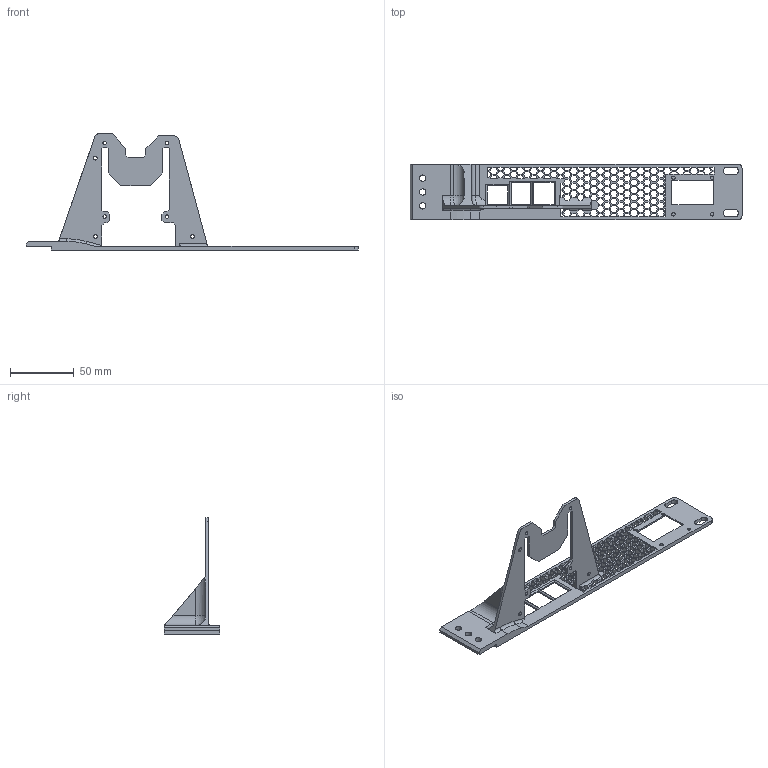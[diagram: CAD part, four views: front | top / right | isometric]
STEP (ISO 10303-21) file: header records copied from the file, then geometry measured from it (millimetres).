
FILE_DESCRIPTION(/* description */ (''),/* implementation_level */ '2;1');
FILE_NAME(/* name */ 'D:\Users\Frederik\Documents\MEGA\3D Druck\Haus\Serverschrank\Raspi-19_1_HE_Left_SSD.stp',/* time_stamp */ '2022-05-25T08:28:34+02:00',/* author */ ('Frederik'),/* organization */ (''),/* preprocessor_version */ 'ST-DEVELOPER v18',/* originating_system */ 'Autodesk Inventor 2020',/* authorisation */ '');
FILE_SCHEMA (('AUTOMOTIVE_DESIGN { 1 0 10303 214 3 1 1 }'));
Length unit declared in the file: millimetre
Products named in the file (1): Raspi-Blende_ssd
Bounding box: 261.3 x 43.6 x 91.72 mm (x, y, z)
Volume: 41148.4 mm3; surface area: 35933 mm2
Topology: 1 solids, 1 shells, 1056 faces, 3139 edges, 2095 vertices
Faces by surface type: plane 913, bspline 102, cylinder 35, cone 3, torus 2, sphere 1
Full cylindrical faces by diameter (mm): 2.7 x8, 3 x3, 5 x3
Entity records: 38352 total; most frequent: CARTESIAN_POINT 9878, ORIENTED_EDGE 6266, DIRECTION 5001, EDGE_CURVE 3133, LINE 2799, VECTOR 2799, VERTEX_POINT 2083, EDGE_LOOP 1382
